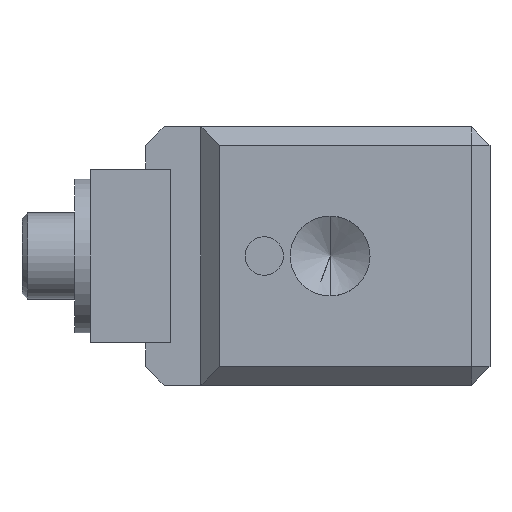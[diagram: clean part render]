
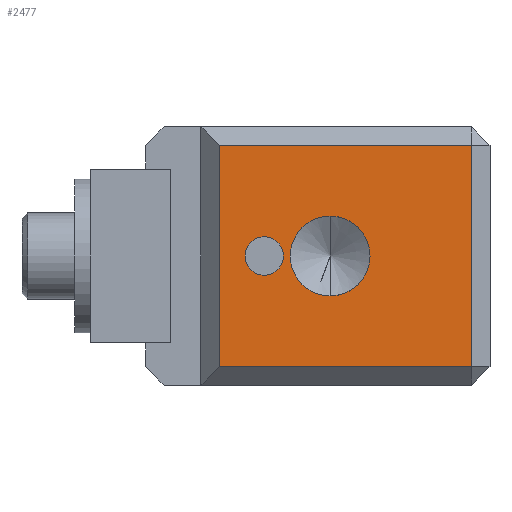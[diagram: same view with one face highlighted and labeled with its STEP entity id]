
A CAD part, front view. The second image highlights one B-rep face of the part: STEP entity #2477.
In plain terms, the highlighted planar face has unit normal (0, -1, 0).
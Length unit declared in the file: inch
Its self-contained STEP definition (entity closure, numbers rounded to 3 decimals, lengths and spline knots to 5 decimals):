
#50 = EDGE_CURVE ( 'NONE', #9315, #16214, #12056, .T. ) ;
#189 = CARTESIAN_POINT ( 'NONE',  ( -0.1067, -0.21885, -0.09099 ) ) ;
#452 = EDGE_CURVE ( 'NONE', #16214, #7334, #11116, .T. ) ;
#650 = CARTESIAN_POINT ( 'NONE',  ( 0.3033, -0.21885, 0.29901 ) ) ;
#760 = CIRCLE ( 'NONE', #5499, 0.03125 ) ;
#888 = ORIENTED_EDGE ( 'NONE', *, *, #1508, .F. ) ;
#1464 = CARTESIAN_POINT ( 'NONE',  ( -0.00245, -0.21885, 0.08901 ) ) ;
#1508 = EDGE_CURVE ( 'NONE', #15825, #11169, #11740, .T. ) ;
#2152 = CIRCLE ( 'NONE', #12051, 0.06496 ) ;
#2288 = DIRECTION ( 'NONE',  ( 0., -1., 0. ) ) ;
#2299 = VERTEX_POINT ( 'NONE', #1464 ) ;
#2477 = ADVANCED_FACE ( 'NONE', ( #4608, #7770, #13542 ), #8231, .F. ) ;
#2863 = EDGE_LOOP ( 'NONE', ( #7515, #5171, #6487, #12388 ) ) ;
#3017 = CARTESIAN_POINT ( 'NONE',  ( 0.3333, -0.21885, 0.26901 ) ) ;
#3268 = EDGE_CURVE ( 'NONE', #2299, #6514, #760, .T. ) ;
#3471 = CARTESIAN_POINT ( 'NONE',  ( -0.0337, -0.21885, 0.08901 ) ) ;
#4449 = CARTESIAN_POINT ( 'NONE',  ( 0.0733, -0.21885, 0.15397 ) ) ;
#4608 = FACE_BOUND ( 'NONE', #5231, .T. ) ;
#4640 = CARTESIAN_POINT ( 'NONE',  ( 0.3333, -0.21885, 0.29901 ) ) ;
#4958 = DIRECTION ( 'NONE',  ( 0., 0., -1. ) ) ;
#5052 = CARTESIAN_POINT ( 'NONE',  ( 0.0733, -0.21885, 0.08901 ) ) ;
#5171 = ORIENTED_EDGE ( 'NONE', *, *, #12421, .T. ) ;
#5231 = EDGE_LOOP ( 'NONE', ( #12210, #9628 ) ) ;
#5499 = AXIS2_PLACEMENT_3D ( 'NONE', #16381, #9833, #16257 ) ;
#5764 = ORIENTED_EDGE ( 'NONE', *, *, #14930, .F. ) ;
#6054 = CARTESIAN_POINT ( 'NONE',  ( 0.0733, -0.21885, 0.08901 ) ) ;
#6205 = AXIS2_PLACEMENT_3D ( 'NONE', #6054, #8555, #9730 ) ;
#6309 = DIRECTION ( 'NONE',  ( 0., -1., 0. ) ) ;
#6487 = ORIENTED_EDGE ( 'NONE', *, *, #50, .T. ) ;
#6514 = VERTEX_POINT ( 'NONE', #9404 ) ;
#6611 = DIRECTION ( 'NONE',  ( -1., 0., 0. ) ) ;
#7334 = VERTEX_POINT ( 'NONE', #13862 ) ;
#7515 = ORIENTED_EDGE ( 'NONE', *, *, #9380, .T. ) ;
#7770 = FACE_BOUND ( 'NONE', #15498, .T. ) ;
#8175 = DIRECTION ( 'NONE',  ( 0., 1., 0. ) ) ;
#8231 = PLANE ( 'NONE',  #14040 ) ;
#8528 = DIRECTION ( 'NONE',  ( 1., 0., 0. ) ) ;
#8555 = DIRECTION ( 'NONE',  ( 0., -1., 0. ) ) ;
#9315 = VERTEX_POINT ( 'NONE', #189 ) ;
#9380 = EDGE_CURVE ( 'NONE', #7334, #14818, #11061, .T. ) ;
#9404 = CARTESIAN_POINT ( 'NONE',  ( -0.06495, -0.21885, 0.08901 ) ) ;
#9628 = ORIENTED_EDGE ( 'NONE', *, *, #11254, .F. ) ;
#9730 = DIRECTION ( 'NONE',  ( 0., 0., -1. ) ) ;
#9833 = DIRECTION ( 'NONE',  ( 0., -1., 0. ) ) ;
#10782 = DIRECTION ( 'NONE',  ( 0., 0., 1. ) ) ;
#10855 = DIRECTION ( 'NONE',  ( -1., 0., 0. ) ) ;
#11061 = LINE ( 'NONE', #3017, #12057 ) ;
#11116 = LINE ( 'NONE', #650, #15317 ) ;
#11169 = VERTEX_POINT ( 'NONE', #4449 ) ;
#11254 = EDGE_CURVE ( 'NONE', #6514, #2299, #12864, .T. ) ;
#11516 = CARTESIAN_POINT ( 'NONE',  ( 0.3033, -0.21885, -0.09099 ) ) ;
#11740 = CIRCLE ( 'NONE', #6205, 0.06496 ) ;
#12051 = AXIS2_PLACEMENT_3D ( 'NONE', #5052, #6309, #15228 ) ;
#12056 = LINE ( 'NONE', #13757, #15455 ) ;
#12057 = VECTOR ( 'NONE', #6611, 39.37008 ) ;
#12210 = ORIENTED_EDGE ( 'NONE', *, *, #3268, .F. ) ;
#12388 = ORIENTED_EDGE ( 'NONE', *, *, #452, .T. ) ;
#12421 = EDGE_CURVE ( 'NONE', #14818, #9315, #16418, .T. ) ;
#12579 = AXIS2_PLACEMENT_3D ( 'NONE', #3471, #2288, #8528 ) ;
#12864 = CIRCLE ( 'NONE', #12579, 0.03125 ) ;
#13542 = FACE_OUTER_BOUND ( 'NONE', #2863, .T. ) ;
#13757 = CARTESIAN_POINT ( 'NONE',  ( 0.3333, -0.21885, -0.09099 ) ) ;
#13796 = CARTESIAN_POINT ( 'NONE',  ( -0.1067, -0.21885, 0.29901 ) ) ;
#13862 = CARTESIAN_POINT ( 'NONE',  ( 0.3033, -0.21885, 0.26901 ) ) ;
#13868 = DIRECTION ( 'NONE',  ( 1., 0., 0. ) ) ;
#14040 = AXIS2_PLACEMENT_3D ( 'NONE', #4640, #8175, #10855 ) ;
#14818 = VERTEX_POINT ( 'NONE', #14961 ) ;
#14930 = EDGE_CURVE ( 'NONE', #11169, #15825, #2152, .T. ) ;
#14961 = CARTESIAN_POINT ( 'NONE',  ( -0.1067, -0.21885, 0.26901 ) ) ;
#15228 = DIRECTION ( 'NONE',  ( 0., 0., -1. ) ) ;
#15317 = VECTOR ( 'NONE', #10782, 39.37008 ) ;
#15406 = VECTOR ( 'NONE', #4958, 39.37008 ) ;
#15455 = VECTOR ( 'NONE', #13868, 39.37008 ) ;
#15498 = EDGE_LOOP ( 'NONE', ( #888, #5764 ) ) ;
#15506 = CARTESIAN_POINT ( 'NONE',  ( 0.0733, -0.21885, 0.02405 ) ) ;
#15825 = VERTEX_POINT ( 'NONE', #15506 ) ;
#16214 = VERTEX_POINT ( 'NONE', #11516 ) ;
#16257 = DIRECTION ( 'NONE',  ( 1., 0., 0. ) ) ;
#16381 = CARTESIAN_POINT ( 'NONE',  ( -0.0337, -0.21885, 0.08901 ) ) ;
#16418 = LINE ( 'NONE', #13796, #15406 ) ;
